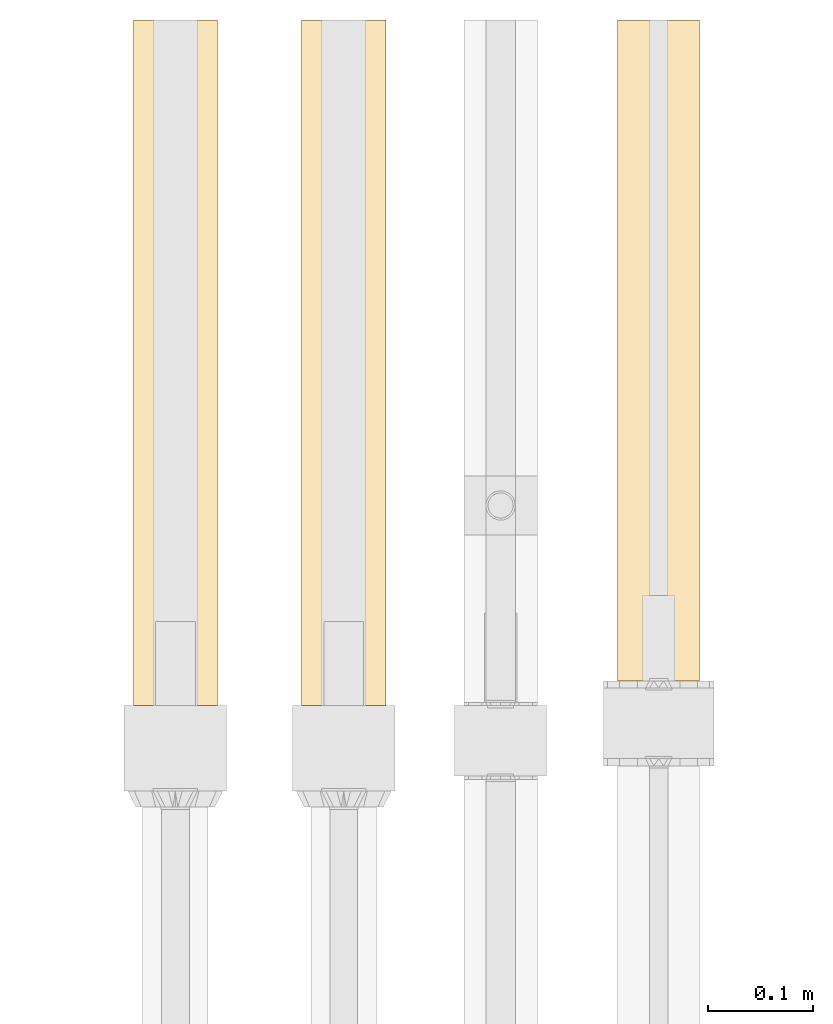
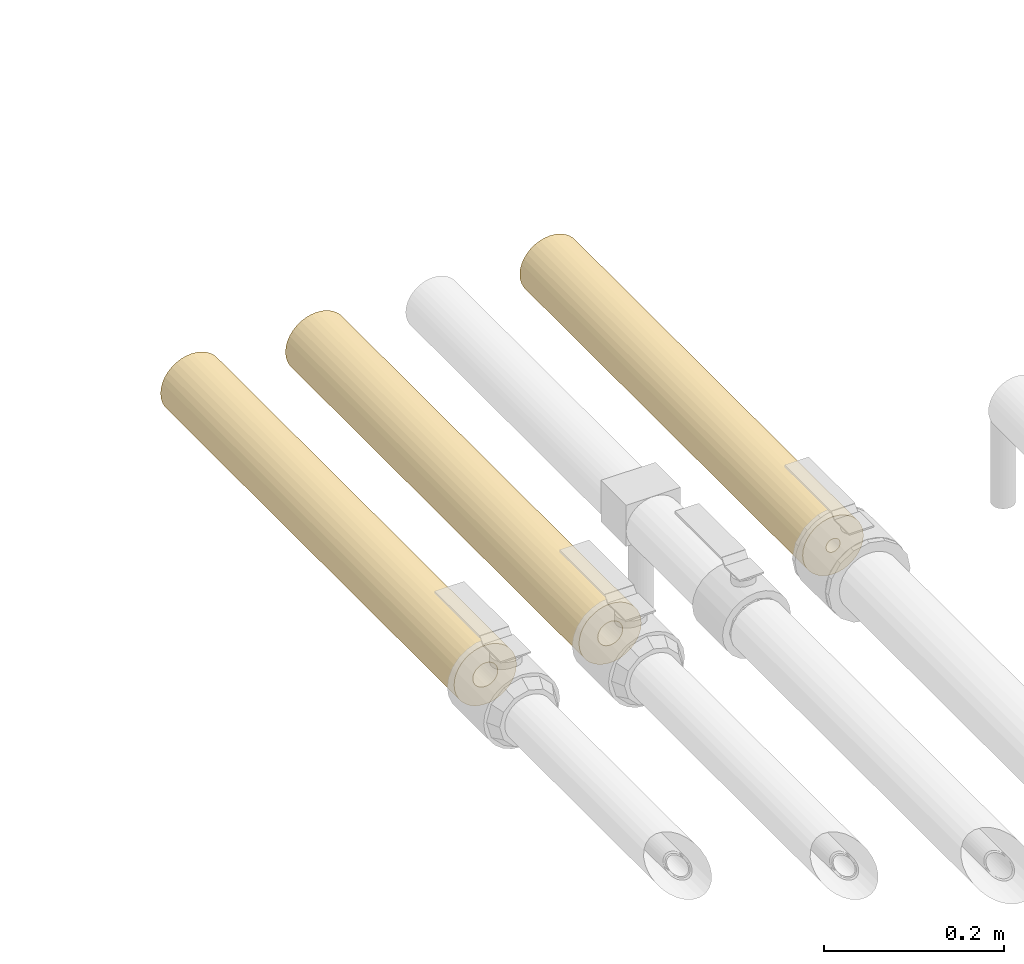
# One storey, part 21 of 83: 3 coverings.
"""IFC2X3 building model written with IfcOpenShell, lengths in millimetres."""

from ifc_helpers import new_model, entity, si_unit, converted_unit, derived_unit, direction, frame, place, context, subcontext, project, spatial, faceted_brep, element, save


model = new_model("IFC2X3")

# Units and contexts
model_context = context("Model", 3, precision=0.01, world=frame((0.0, 4.29681676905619e-09, 0.0)), true_north=direction((4.01073788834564e-13, 1.0)))
plan_context = context("Plan", 3, precision=0.01, world=frame((0.0, 4.29681676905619e-09, 0.0)), true_north=direction((4.01073788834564e-13, 1.0)))
body_context = subcontext(model_context, "Body", "Model", "MODEL_VIEW")
ifc_project = project(units=[converted_unit("PLANEANGLEUNIT", "DEGREE", entity("IfcPositiveLengthMeasure", 0.0174532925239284), si_unit("PLANEANGLEUNIT", "RADIAN"), dimensions=[0, 0, 0, 0, 0, 0, 0]), si_unit("AREAUNIT", "SQUARE_METRE"), si_unit("LENGTHUNIT", "METRE", prefix="MILLI"), si_unit("MASSUNIT", "GRAM", prefix="KILO"), si_unit("POWERUNIT", "WATT"), si_unit("PRESSUREUNIT", "PASCAL"), si_unit("FORCEUNIT", "NEWTON", prefix="KILO"), si_unit("ELECTRICVOLTAGEUNIT", "VOLT"), si_unit("ELECTRICCURRENTUNIT", "AMPERE"), si_unit("THERMODYNAMICTEMPERATUREUNIT", "DEGREE_CELSIUS"), si_unit("TIMEUNIT", "SECOND"), si_unit("VOLUMEUNIT", "CUBIC_METRE"), derived_unit("LINEARVELOCITYUNIT", [(si_unit("LENGTHUNIT", "METRE"), 1), (si_unit("TIMEUNIT", "SECOND"), -1)]), derived_unit("VOLUMETRICFLOWRATEUNIT", [(si_unit("VOLUMEUNIT", "CUBIC_METRE"), 1), (si_unit("TIMEUNIT", "SECOND"), -1)]), derived_unit("THERMALTRANSMITTANCEUNIT", [(si_unit("POWERUNIT", "WATT"), 1), (si_unit("THERMODYNAMICTEMPERATUREUNIT", "KELVIN"), -1), (si_unit("AREAUNIT", "SQUARE_METRE"), -1)]), derived_unit("SOUNDPRESSUREUNIT", [(si_unit("PRESSUREUNIT", "PASCAL"), 1)])], contexts=[model_context, plan_context])

# Site, building, storey
site_placement = place(None, frame((0.0, -4.29681676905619e-09, 0.0), z_axis=(0.0, 0.0, 1.0), x_axis=(1.0, 0.0, 0.0)))
site = spatial("IfcSite", under=ifc_project, at=site_placement, Name="ENGM", CompositionType="ELEMENT")
building_placement = place(site_placement, frame((0.0, 4.29681676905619e-09, 0.0), z_axis=(0.0, 0.0, 1.0), x_axis=(1.0, 0.0, 0.0)))
building = spatial("IfcBuilding", under=site, at=building_placement, Name="TI", CompositionType="ELEMENT")
storey_placement = place(building_placement, frame((0.0, 0.0, 204000.0), z_axis=(0.0, 0.0, 1.0), x_axis=(1.0, 0.0, 0.0)))
storey = spatial("IfcBuildingStorey", under=building, at=storey_placement, Name="Nivå D", CompositionType="ELEMENT", Elevation=204000.0)

# Coverings
covering_1_placement = place(storey_placement, frame((600031.9743, 700302.5909, 6052.20000000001), z_axis=(0.0, 0.0, 1.0), x_axis=(0.0, -1.0, 0.0)))
element("IfcCovering", 1, at=covering_1_placement, inside=storey, Name="BI16T - Rørskål m/Al.folie - VV 40mm", PredefinedType="INSULATION", context=body_context, shape_type="Brep", body=[
    faceted_brep([(827.09090000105, 8.86326977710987, -1.56283359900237), (827.09090000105, 9.0, 0.0), (1455.9, 9.0, 0.0), (1455.9, 8.86326977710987, -1.56283359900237), (827.09090000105, 8.45723358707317, -3.07818128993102), (1455.9, 8.45723358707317, -3.07818128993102), (827.09090000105, 7.79422863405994, -4.5), (1455.9, 7.79422863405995, -4.5), (827.09090000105, 6.8943999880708, -5.78508848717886), (1455.9, 6.8943999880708, -5.78508848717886), (827.09090000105, 5.78508848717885, -6.8943999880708), (1455.9, 5.78508848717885, -6.8943999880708), (827.09090000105, 4.5, -7.79422863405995), (1455.9, 4.5, -7.79422863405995), (827.09090000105, 3.07818128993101, -8.45723358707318), (1455.9, 3.07818128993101, -8.45723358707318), (827.09090000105, 1.56283359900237, -8.86326977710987), (1455.9, 1.56283359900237, -8.86326977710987), (827.09090000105, -1.65327317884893e-15, -9.0), (1455.9, -1.65327317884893e-15, -9.0), (827.09090000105, -1.56283359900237, -8.86326977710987), (1455.9, -1.56283359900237, -8.86326977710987), (827.09090000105, -3.07818128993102, -8.45723358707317), (1455.9, -3.07818128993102, -8.45723358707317), (827.09090000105, -4.5, -7.79422863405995), (1455.9, -4.5, -7.79422863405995), (827.09090000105, -5.78508848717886, -6.8943999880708), (1455.9, -5.78508848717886, -6.8943999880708), (827.09090000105, -6.8943999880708, -5.78508848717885), (1455.9, -6.8943999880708, -5.78508848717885), (827.09090000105, -7.79422863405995, -4.5), (1455.9, -7.79422863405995, -4.5), (827.09090000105, -8.45723358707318, -3.07818128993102), (1455.9, -8.45723358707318, -3.07818128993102), (827.09090000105, -8.86326977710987, -1.56283359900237), (1455.9, -8.86326977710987, -1.56283359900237), (827.09090000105, -9.0, 1.10218211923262e-15), (1455.9, -9.0, 1.10218211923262e-15), (827.09090000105, -8.86326977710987, 1.56283359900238), (1455.9, -8.86326977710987, 1.56283359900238), (827.09090000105, -8.45723358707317, 3.07818128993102), (1455.9, -8.45723358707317, 3.07818128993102), (827.09090000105, -7.79422863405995, 4.5), (1455.9, -7.79422863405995, 4.5), (827.09090000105, -6.8943999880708, 5.78508848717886), (1455.9, -6.8943999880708, 5.78508848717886), (827.09090000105, -5.78508848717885, 6.8943999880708), (1455.9, -5.78508848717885, 6.8943999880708), (827.09090000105, -4.5, 7.79422863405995), (1455.9, -4.5, 7.79422863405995), (827.09090000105, -3.07818128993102, 8.45723358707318), (1455.9, -3.07818128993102, 8.45723358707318), (827.09090000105, -1.56283359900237, 8.86326977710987), (1455.9, -1.56283359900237, 8.86326977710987), (827.09090000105, 5.51091059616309e-16, 9.0), (1455.9, 5.51091059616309e-16, 9.0), (827.09090000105, 1.56283359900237, 8.86326977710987), (1455.9, 1.56283359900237, 8.86326977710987), (827.09090000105, 3.07818128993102, 8.45723358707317), (1455.9, 3.07818128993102, 8.45723358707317), (827.09090000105, 4.5, 7.79422863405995), (1455.9, 4.5, 7.79422863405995), (827.09090000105, 5.78508848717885, 6.8943999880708), (1455.9, 5.78508848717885, 6.8943999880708), (827.09090000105, 6.8943999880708, 5.78508848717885), (1455.9, 6.8943999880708, 5.78508848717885), (827.09090000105, 7.79422863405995, 4.5), (1455.9, 7.79422863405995, 4.5), (827.09090000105, 8.45723358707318, 3.07818128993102), (1455.9, 8.45723358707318, 3.07818128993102), (827.09090000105, 8.86326977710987, 1.56283359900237), (1455.9, 8.86326977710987, 1.56283359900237), (827.09090000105, 39.0, 0.0), (827.09090000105, 38.4075023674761, -6.77227892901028), (1455.9, 38.4075023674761, -6.77227892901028), (1455.9, 39.0, 0.0), (827.09090000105, 38.4075023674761, 6.77227892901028), (1455.9, 38.4075023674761, 6.77227892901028), (827.09090000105, 36.6480122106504, 13.3387855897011), (1455.9, 36.6480122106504, 13.3387855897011), (827.09090000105, 33.7749907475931, 19.5), (1455.9, 33.7749907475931, 19.5), (827.09090000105, 29.8757332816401, 25.068716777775), (1455.9, 29.8757332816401, 25.068716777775), (827.09090000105, 25.068716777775, 29.8757332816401), (1455.9, 25.068716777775, 29.8757332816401), (827.09090000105, 19.5, 33.7749907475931), (1455.9, 19.5, 33.7749907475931), (827.09090000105, 13.3387855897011, 36.6480122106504), (1455.9, 13.3387855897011, 36.6480122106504), (827.09090000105, 6.77227892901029, 38.4075023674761), (1455.9, 6.77227892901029, 38.4075023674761), (827.09090000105, 2.38806125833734e-15, 39.0), (1455.9, 2.38806125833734e-15, 39.0), (827.09090000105, -6.77227892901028, 38.4075023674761), (1455.9, -6.77227892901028, 38.4075023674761), (827.09090000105, -13.3387855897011, 36.6480122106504), (1455.9, -13.3387855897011, 36.6480122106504), (827.09090000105, -19.5, 33.7749907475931), (1455.9, -19.5, 33.7749907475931), (827.09090000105, -25.068716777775, 29.8757332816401), (1455.9, -25.068716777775, 29.8757332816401), (827.09090000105, -29.8757332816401, 25.068716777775), (1455.9, -29.8757332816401, 25.068716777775), (827.09090000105, -33.7749907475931, 19.5), (1455.9, -33.7749907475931, 19.5), (827.09090000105, -36.6480122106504, 13.3387855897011), (1455.9, -36.6480122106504, 13.3387855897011), (827.09090000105, -38.4075023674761, 6.7722789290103), (1455.9, -38.4075023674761, 6.7722789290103), (827.09090000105, -39.0, 4.77612251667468e-15), (1455.9, -39.0, 4.77612251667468e-15), (827.09090000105, -38.4075023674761, -6.77227892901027), (1455.9, -38.4075023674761, -6.77227892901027), (827.09090000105, -36.6480122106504, -13.3387855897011), (1455.9, -36.6480122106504, -13.3387855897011), (827.09090000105, -33.7749907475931, -19.5), (1455.9, -33.7749907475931, -19.5), (827.09090000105, -29.8757332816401, -25.068716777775), (1455.9, -29.8757332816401, -25.068716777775), (827.09090000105, -25.068716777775, -29.8757332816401), (1455.9, -25.068716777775, -29.8757332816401), (827.09090000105, -19.5, -33.7749907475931), (1455.9, -19.5, -33.7749907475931), (827.09090000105, -13.3387855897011, -36.6480122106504), (1455.9, -13.3387855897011, -36.6480122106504), (827.09090000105, -6.77227892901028, -38.4075023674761), (1455.9, -6.77227892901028, -38.4075023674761), (827.09090000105, -7.16418377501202e-15, -39.0), (1455.9, -7.16418377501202e-15, -39.0), (827.09090000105, 6.77227892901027, -38.4075023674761), (1455.9, 6.77227892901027, -38.4075023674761), (827.09090000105, 13.3387855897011, -36.6480122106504), (1455.9, 13.3387855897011, -36.6480122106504), (827.09090000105, 19.5, -33.7749907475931), (1455.9, 19.5, -33.7749907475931), (827.09090000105, 25.068716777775, -29.8757332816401), (1455.9, 25.068716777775, -29.8757332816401), (827.09090000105, 29.8757332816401, -25.068716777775), (1455.9, 29.8757332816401, -25.068716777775), (827.09090000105, 33.7749907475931, -19.5), (1455.9, 33.7749907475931, -19.5), (827.09090000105, 36.6480122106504, -13.3387855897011), (1455.9, 36.6480122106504, -13.3387855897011)], [[[0, 1, 2, 3]], [[4, 0, 3, 5]], [[6, 4, 5, 7]], [[8, 6, 7, 9]], [[10, 8, 9, 11]], [[12, 10, 11, 13]], [[14, 12, 13, 15]], [[16, 14, 15, 17]], [[18, 16, 17, 19]], [[20, 18, 19, 21]], [[22, 20, 21, 23]], [[24, 22, 23, 25]], [[26, 24, 25, 27]], [[28, 26, 27, 29]], [[30, 28, 29, 31]], [[32, 30, 31, 33]], [[34, 32, 33, 35]], [[36, 34, 35, 37]], [[38, 36, 37, 39]], [[40, 38, 39, 41]], [[42, 40, 41, 43]], [[44, 42, 43, 45]], [[46, 44, 45, 47]], [[48, 46, 47, 49]], [[50, 48, 49, 51]], [[52, 50, 51, 53]], [[54, 52, 53, 55]], [[56, 54, 55, 57]], [[58, 56, 57, 59]], [[60, 58, 59, 61]], [[62, 60, 61, 63]], [[64, 62, 63, 65]], [[66, 64, 65, 67]], [[68, 66, 67, 69]], [[70, 68, 69, 71]], [[1, 70, 71, 2]], [[72, 73, 74, 75]], [[76, 72, 75, 77]], [[78, 76, 77, 79]], [[80, 78, 79, 81]], [[82, 80, 81, 83]], [[84, 82, 83, 85]], [[86, 84, 85, 87]], [[88, 86, 87, 89]], [[90, 88, 89, 91]], [[92, 90, 91, 93]], [[94, 92, 93, 95]], [[96, 94, 95, 97]], [[98, 96, 97, 99]], [[100, 98, 99, 101]], [[102, 100, 101, 103]], [[104, 102, 103, 105]], [[106, 104, 105, 107]], [[108, 106, 107, 109]], [[110, 108, 109, 111]], [[112, 110, 111, 113]], [[114, 112, 113, 115]], [[116, 114, 115, 117]], [[118, 116, 117, 119]], [[120, 118, 119, 121]], [[122, 120, 121, 123]], [[124, 122, 123, 125]], [[126, 124, 125, 127]], [[128, 126, 127, 129]], [[130, 128, 129, 131]], [[132, 130, 131, 133]], [[134, 132, 133, 135]], [[136, 134, 135, 137]], [[138, 136, 137, 139]], [[140, 138, 139, 141]], [[142, 140, 141, 143]], [[73, 142, 143, 74]], [[75, 74, 143, 141, 139, 137, 135, 133, 131, 129, 127, 125, 123, 121, 119, 117, 115, 113, 111, 109, 107, 105, 103, 101, 99, 97, 95, 93, 91, 89, 87, 85, 83, 81, 79, 77], [2, 71, 69, 67, 65, 63, 61, 59, 57, 55, 53, 51, 49, 47, 45, 43, 41, 39, 37, 35, 33, 31, 29, 27, 25, 23, 21, 19, 17, 15, 13, 11, 9, 7, 5, 3]], [[76, 78, 80, 82, 84, 86, 88, 90, 92, 94, 96, 98, 100, 102, 104, 106, 108, 110, 112, 114, 116, 118, 120, 122, 124, 126, 128, 130, 132, 134, 136, 138, 140, 142, 73, 72], [4, 6, 8, 10, 12, 14, 16, 18, 20, 22, 24, 26, 28, 30, 32, 34, 36, 38, 40, 42, 44, 46, 48, 50, 52, 54, 56, 58, 60, 62, 64, 66, 68, 70, 1, 0]]], orient=[[False], [False], [False], [False], [False], [False], [False], [False], [False], [False], [False], [False], [False], [False], [False], [False], [False], [False], [False], [False], [False], [False], [False], [False], [False], [False], [False], [False], [False], [False], [False], [False], [False], [False], [False], [False], [False], [False], [False], [False], [False], [False], [False], [False], [False], [False], [False], [False], [False], [False], [False], [False], [False], [False], [False], [False], [False], [False], [False], [False], [False], [False], [False], [False], [False], [False], [False], [False], [False], [False], [False], [False], [False, False], [False, False]]),
])
covering_2_placement = place(storey_placement, frame((599732.2743, 699900.47687, 6052.20000000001), z_axis=(0.0, -2.69999999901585e-05, 0.9999999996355), x_axis=(0.0, -0.9999999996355, -2.69999999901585e-05)))
element("IfcCovering", 2, at=covering_2_placement, inside=storey, Name="BI10T - Cellegummi 18-32 mm kalde rør", PredefinedType="INSULATION", context=body_context, shape_type="Brep", body=[
    faceted_brep([(424.976945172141, 15.7569240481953, -2.77837084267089), (424.976870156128, 16.0, 0.0), (1077.5, 16.0, 0.0), (1077.5, 15.7569240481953, -2.77837084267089), (424.97701790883, 15.0350819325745, -5.47232229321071), (1077.5, 15.0350819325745, -5.47232229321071), (424.977086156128, 13.856406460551, -8.00000000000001), (1077.5, 13.856406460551, -8.00000000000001), (424.977147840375, 12.2567110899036, -10.2846017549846), (1077.5, 12.2567110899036, -10.2846017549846), (424.977201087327, 10.2846017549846, -12.2567110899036), (1077.5, 10.2846017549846, -12.2567110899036), (424.977244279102, 8.0, -13.856406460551), (1077.5, 8.0, -13.856406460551), (424.97727610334, 5.47232229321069, -15.0350819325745), (1077.5, 5.47232229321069, -15.0350819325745), (424.977295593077, 2.77837084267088, -15.7569240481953), (1077.5, 2.77837084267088, -15.7569240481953), (424.977302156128, -2.93915231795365e-15, -16.0), (1077.5, -2.93915231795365e-15, -16.0), (424.977295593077, -2.77837084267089, -15.7569240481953), (1077.5, -2.77837084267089, -15.7569240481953), (424.97727610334, -5.47232229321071, -15.0350819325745), (1077.5, -5.47232229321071, -15.0350819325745), (424.977244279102, -8.00000000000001, -13.856406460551), (1077.5, -8.00000000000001, -13.856406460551), (424.977201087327, -10.2846017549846, -12.2567110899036), (1077.5, -10.2846017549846, -12.2567110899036), (424.977147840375, -12.2567110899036, -10.2846017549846), (1077.5, -12.2567110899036, -10.2846017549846), (424.977086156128, -13.856406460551, -8.0), (1077.5, -13.856406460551, -8.0), (424.97701790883, -15.0350819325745, -5.4723222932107), (1077.5, -15.0350819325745, -5.4723222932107), (424.976945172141, -15.7569240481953, -2.77837084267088), (1077.5, -15.7569240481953, -2.77837084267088), (424.976870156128, -16.0, 1.95943487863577e-15), (1077.5, -16.0, 1.95943487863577e-15), (424.976795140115, -15.7569240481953, 2.77837084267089), (1077.5, -15.7569240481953, 2.77837084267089), (424.976722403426, -15.0350819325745, 5.4723222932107), (1077.5, -15.0350819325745, 5.4723222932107), (424.976654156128, -13.856406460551, 8.0), (1077.5, -13.856406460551, 8.0), (424.976592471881, -12.2567110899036, 10.2846017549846), (1077.5, -12.2567110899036, 10.2846017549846), (424.976539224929, -10.2846017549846, 12.2567110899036), (1077.5, -10.2846017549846, 12.2567110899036), (424.976496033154, -8.0, 13.856406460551), (1077.5, -8.0, 13.856406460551), (424.976464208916, -5.4723222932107, 15.0350819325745), (1077.5, -5.4723222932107, 15.0350819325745), (424.976444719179, -2.77837084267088, 15.7569240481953), (1077.5, -2.77837084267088, 15.7569240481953), (424.976438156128, 9.79717439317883e-16, 16.0), (1077.5, 9.79717439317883e-16, 16.0), (424.976444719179, 2.77837084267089, 15.7569240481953), (1077.5, 2.77837084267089, 15.7569240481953), (424.976464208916, 5.4723222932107, 15.0350819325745), (1077.5, 5.4723222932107, 15.0350819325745), (424.976496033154, 8.0, 13.856406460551), (1077.5, 8.0, 13.856406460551), (424.976539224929, 10.2846017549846, 12.2567110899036), (1077.5, 10.2846017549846, 12.2567110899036), (424.976592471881, 12.2567110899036, 10.2846017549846), (1077.5, 12.2567110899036, 10.2846017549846), (424.976654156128, 13.856406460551, 8.0), (1077.5, 13.856406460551, 8.0), (424.976722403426, 15.0350819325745, 5.4723222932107), (1077.5, 15.0350819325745, 5.4723222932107), (424.976795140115, 15.7569240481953, 2.77837084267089), (1077.5, 15.7569240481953, 2.77837084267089), (424.976870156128, 40.0, 0.0), (424.97705769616, 39.3923101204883, -6.94592710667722), (1077.5, 39.3923101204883, -6.94592710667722), (1077.5, 40.0, 0.0), (424.976682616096, 39.3923101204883, 6.94592710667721), (1077.5, 39.3923101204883, 6.94592710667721), (424.976500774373, 37.5877048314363, 13.6808057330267), (1077.5, 37.5877048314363, 13.6808057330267), (424.976330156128, 34.6410161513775, 20.0), (1077.5, 34.6410161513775, 20.0), (424.97617594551, 30.6417777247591, 25.7115043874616), (1077.5, 30.6417777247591, 25.7115043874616), (424.976042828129, 25.7115043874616, 30.6417777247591), (1077.5, 25.7115043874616, 30.6417777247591), (424.975934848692, 20.0, 34.6410161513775), (1077.5, 20.0, 34.6410161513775), (424.975855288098, 13.6808057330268, 37.5877048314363), (1077.5, 13.6808057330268, 37.5877048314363), (424.975806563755, 6.94592710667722, 39.3923101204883), (1077.5, 6.94592710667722, 39.3923101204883), (424.975790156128, 2.44929359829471e-15, 40.0), (1077.5, 2.44929359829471e-15, 40.0), (424.975806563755, -6.94592710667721, 39.3923101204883), (1077.5, -6.94592710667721, 39.3923101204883), (424.975855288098, -13.6808057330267, 37.5877048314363), (1077.5, -13.6808057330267, 37.5877048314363), (424.975934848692, -20.0, 34.6410161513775), (1077.5, -20.0, 34.6410161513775), (424.976042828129, -25.7115043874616, 30.6417777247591), (1077.5, -25.7115043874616, 30.6417777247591), (424.97617594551, -30.6417777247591, 25.7115043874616), (1077.5, -30.6417777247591, 25.7115043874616), (424.976330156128, -34.6410161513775, 20.0), (1077.5, -34.6410161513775, 20.0), (424.976500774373, -37.5877048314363, 13.6808057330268), (1077.5, -37.5877048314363, 13.6808057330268), (424.976682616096, -39.3923101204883, 6.94592710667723), (1077.5, -39.3923101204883, 6.94592710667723), (424.976870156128, -40.0, 4.89858719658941e-15), (1077.5, -40.0, 4.89858719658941e-15), (424.97705769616, -39.3923101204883, -6.9459271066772), (1077.5, -39.3923101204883, -6.9459271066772), (424.977239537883, -37.5877048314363, -13.6808057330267), (1077.5, -37.5877048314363, -13.6808057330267), (424.977410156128, -34.6410161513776, -20.0), (1077.5, -34.6410161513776, -20.0), (424.977564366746, -30.6417777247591, -25.7115043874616), (1077.5, -30.6417777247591, -25.7115043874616), (424.977697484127, -25.7115043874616, -30.6417777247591), (1077.5, -25.7115043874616, -30.6417777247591), (424.977805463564, -20.0, -34.6410161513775), (1077.5, -20.0, -34.6410161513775), (424.977885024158, -13.6808057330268, -37.5877048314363), (1077.5, -13.6808057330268, -37.5877048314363), (424.977933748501, -6.94592710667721, -39.3923101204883), (1077.5, -6.94592710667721, -39.3923101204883), (424.977950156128, -7.34788079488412e-15, -40.0), (1077.5, -7.34788079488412e-15, -40.0), (424.977933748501, 6.9459271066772, -39.3923101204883), (1077.5, 6.9459271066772, -39.3923101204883), (424.977885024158, 13.6808057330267, -37.5877048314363), (1077.5, 13.6808057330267, -37.5877048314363), (424.977805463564, 20.0, -34.6410161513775), (1077.5, 20.0, -34.6410161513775), (424.977697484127, 25.7115043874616, -30.6417777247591), (1077.5, 25.7115043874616, -30.6417777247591), (424.977564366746, 30.6417777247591, -25.7115043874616), (1077.5, 30.6417777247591, -25.7115043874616), (424.977410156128, 34.6410161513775, -20.0), (1077.5, 34.6410161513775, -20.0), (424.977239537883, 37.5877048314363, -13.6808057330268), (1077.5, 37.5877048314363, -13.6808057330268)], [[[0, 1, 2, 3]], [[4, 0, 3, 5]], [[6, 4, 5, 7]], [[8, 6, 7, 9]], [[10, 8, 9, 11]], [[12, 10, 11, 13]], [[14, 12, 13, 15]], [[16, 14, 15, 17]], [[18, 16, 17, 19]], [[20, 18, 19, 21]], [[22, 20, 21, 23]], [[24, 22, 23, 25]], [[26, 24, 25, 27]], [[28, 26, 27, 29]], [[30, 28, 29, 31]], [[32, 30, 31, 33]], [[34, 32, 33, 35]], [[36, 34, 35, 37]], [[38, 36, 37, 39]], [[40, 38, 39, 41]], [[42, 40, 41, 43]], [[44, 42, 43, 45]], [[46, 44, 45, 47]], [[48, 46, 47, 49]], [[50, 48, 49, 51]], [[52, 50, 51, 53]], [[54, 52, 53, 55]], [[56, 54, 55, 57]], [[58, 56, 57, 59]], [[60, 58, 59, 61]], [[62, 60, 61, 63]], [[64, 62, 63, 65]], [[66, 64, 65, 67]], [[68, 66, 67, 69]], [[70, 68, 69, 71]], [[1, 70, 71, 2]], [[72, 73, 74, 75]], [[76, 72, 75, 77]], [[78, 76, 77, 79]], [[80, 78, 79, 81]], [[82, 80, 81, 83]], [[84, 82, 83, 85]], [[86, 84, 85, 87]], [[88, 86, 87, 89]], [[90, 88, 89, 91]], [[92, 90, 91, 93]], [[94, 92, 93, 95]], [[96, 94, 95, 97]], [[98, 96, 97, 99]], [[100, 98, 99, 101]], [[102, 100, 101, 103]], [[104, 102, 103, 105]], [[106, 104, 105, 107]], [[108, 106, 107, 109]], [[110, 108, 109, 111]], [[112, 110, 111, 113]], [[114, 112, 113, 115]], [[116, 114, 115, 117]], [[118, 116, 117, 119]], [[120, 118, 119, 121]], [[122, 120, 121, 123]], [[124, 122, 123, 125]], [[126, 124, 125, 127]], [[128, 126, 127, 129]], [[130, 128, 129, 131]], [[132, 130, 131, 133]], [[134, 132, 133, 135]], [[136, 134, 135, 137]], [[138, 136, 137, 139]], [[140, 138, 139, 141]], [[142, 140, 141, 143]], [[73, 142, 143, 74]], [[75, 74, 143, 141, 139, 137, 135, 133, 131, 129, 127, 125, 123, 121, 119, 117, 115, 113, 111, 109, 107, 105, 103, 101, 99, 97, 95, 93, 91, 89, 87, 85, 83, 81, 79, 77], [2, 71, 69, 67, 65, 63, 61, 59, 57, 55, 53, 51, 49, 47, 45, 43, 41, 39, 37, 35, 33, 31, 29, 27, 25, 23, 21, 19, 17, 15, 13, 11, 9, 7, 5, 3]], [[76, 78, 80, 82, 84, 86, 88, 90, 92, 94, 96, 98, 100, 102, 104, 106, 108, 110, 112, 114, 116, 118, 120, 122, 124, 126, 128, 130, 132, 134, 136, 138, 140, 142, 73, 72], [4, 6, 8, 10, 12, 14, 16, 18, 20, 22, 24, 26, 28, 30, 32, 34, 36, 38, 40, 42, 44, 46, 48, 50, 52, 54, 56, 58, 60, 62, 64, 66, 68, 70, 1, 0]]], orient=[[False], [False], [False], [False], [False], [False], [False], [False], [False], [False], [False], [False], [False], [False], [False], [False], [False], [False], [False], [False], [False], [False], [False], [False], [False], [False], [False], [False], [False], [False], [False], [False], [False], [False], [False], [False], [False], [False], [False], [False], [False], [False], [False], [False], [False], [False], [False], [False], [False], [False], [False], [False], [False], [False], [False], [False], [False], [False], [False], [False], [False], [False], [False], [False], [False], [False], [False], [False], [False], [False], [False], [False], [False, False], [False, False]]),
])
covering_3_placement = place(storey_placement, frame((599571.9743, 699780.77958, 6052.20000000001), z_axis=(0.0, 0.0, 1.0), x_axis=(0.0, -1.0, 0.0)))
element("IfcCovering", 3, at=covering_3_placement, inside=storey, Name="BI10T - Cellegummi 18-32 mm kalde rør", PredefinedType="INSULATION", context=body_context, shape_type="Brep", body=[
    faceted_brep([(305.279580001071, 15.7569240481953, -2.77837084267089), (305.279580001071, 16.0, 0.0), (957.8, 16.0, 0.0), (957.8, 15.7569240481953, -2.77837084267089), (305.279580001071, 15.0350819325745, -5.47232229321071), (957.8, 15.0350819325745, -5.47232229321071), (305.279580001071, 13.856406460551, -8.00000000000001), (957.8, 13.856406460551, -8.00000000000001), (305.279580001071, 12.2567110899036, -10.2846017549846), (957.8, 12.2567110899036, -10.2846017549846), (305.279580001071, 10.2846017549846, -12.2567110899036), (957.8, 10.2846017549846, -12.2567110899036), (305.279580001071, 8.0, -13.856406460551), (957.8, 8.0, -13.856406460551), (305.279580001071, 5.47232229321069, -15.0350819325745), (957.8, 5.47232229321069, -15.0350819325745), (305.279580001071, 2.77837084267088, -15.7569240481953), (957.8, 2.77837084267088, -15.7569240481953), (305.279580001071, -2.93915231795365e-15, -16.0), (957.8, -2.93915231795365e-15, -16.0), (305.279580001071, -2.77837084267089, -15.7569240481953), (957.8, -2.77837084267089, -15.7569240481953), (305.279580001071, -5.47232229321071, -15.0350819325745), (957.8, -5.47232229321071, -15.0350819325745), (305.279580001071, -8.00000000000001, -13.856406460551), (957.8, -8.00000000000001, -13.856406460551), (305.279580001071, -10.2846017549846, -12.2567110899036), (957.8, -10.2846017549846, -12.2567110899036), (305.279580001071, -12.2567110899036, -10.2846017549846), (957.8, -12.2567110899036, -10.2846017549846), (305.279580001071, -13.856406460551, -8.0), (957.8, -13.856406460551, -8.0), (305.279580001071, -15.0350819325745, -5.4723222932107), (957.8, -15.0350819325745, -5.4723222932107), (305.279580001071, -15.7569240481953, -2.77837084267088), (957.8, -15.7569240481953, -2.77837084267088), (305.279580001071, -16.0, 1.95943487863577e-15), (957.8, -16.0, 1.95943487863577e-15), (305.279580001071, -15.7569240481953, 2.77837084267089), (957.8, -15.7569240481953, 2.77837084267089), (305.279580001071, -15.0350819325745, 5.4723222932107), (957.8, -15.0350819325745, 5.4723222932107), (305.279580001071, -13.856406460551, 8.0), (957.8, -13.856406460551, 8.0), (305.279580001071, -12.2567110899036, 10.2846017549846), (957.8, -12.2567110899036, 10.2846017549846), (305.279580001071, -10.2846017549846, 12.2567110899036), (957.8, -10.2846017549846, 12.2567110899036), (305.279580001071, -8.0, 13.856406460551), (957.8, -8.0, 13.856406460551), (305.279580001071, -5.4723222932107, 15.0350819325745), (957.8, -5.4723222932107, 15.0350819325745), (305.279580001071, -2.77837084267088, 15.7569240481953), (957.8, -2.77837084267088, 15.7569240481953), (305.279580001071, 9.79717439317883e-16, 16.0), (957.8, 9.79717439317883e-16, 16.0), (305.279580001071, 2.77837084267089, 15.7569240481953), (957.8, 2.77837084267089, 15.7569240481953), (305.279580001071, 5.4723222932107, 15.0350819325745), (957.8, 5.4723222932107, 15.0350819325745), (305.279580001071, 8.0, 13.856406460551), (957.8, 8.0, 13.856406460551), (305.279580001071, 10.2846017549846, 12.2567110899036), (957.8, 10.2846017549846, 12.2567110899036), (305.279580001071, 12.2567110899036, 10.2846017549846), (957.8, 12.2567110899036, 10.2846017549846), (305.279580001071, 13.856406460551, 8.0), (957.8, 13.856406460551, 8.0), (305.279580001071, 15.0350819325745, 5.4723222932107), (957.8, 15.0350819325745, 5.4723222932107), (305.279580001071, 15.7569240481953, 2.77837084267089), (957.8, 15.7569240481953, 2.77837084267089), (305.279580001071, 40.0, 0.0), (305.279580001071, 39.3923101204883, -6.94592710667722), (957.8, 39.3923101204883, -6.94592710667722), (957.8, 40.0, 0.0), (305.279580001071, 39.3923101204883, 6.94592710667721), (957.8, 39.3923101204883, 6.94592710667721), (305.279580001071, 37.5877048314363, 13.6808057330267), (957.8, 37.5877048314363, 13.6808057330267), (305.279580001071, 34.6410161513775, 20.0), (957.8, 34.6410161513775, 20.0), (305.279580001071, 30.6417777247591, 25.7115043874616), (957.8, 30.6417777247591, 25.7115043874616), (305.279580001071, 25.7115043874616, 30.6417777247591), (957.8, 25.7115043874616, 30.6417777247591), (305.279580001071, 20.0, 34.6410161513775), (957.8, 20.0, 34.6410161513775), (305.279580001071, 13.6808057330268, 37.5877048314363), (957.8, 13.6808057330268, 37.5877048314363), (305.279580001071, 6.94592710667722, 39.3923101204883), (957.8, 6.94592710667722, 39.3923101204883), (305.279580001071, 2.44929359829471e-15, 40.0), (957.8, 2.44929359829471e-15, 40.0), (305.279580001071, -6.94592710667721, 39.3923101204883), (957.8, -6.94592710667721, 39.3923101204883), (305.279580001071, -13.6808057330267, 37.5877048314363), (957.8, -13.6808057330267, 37.5877048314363), (305.279580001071, -20.0, 34.6410161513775), (957.8, -20.0, 34.6410161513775), (305.279580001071, -25.7115043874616, 30.6417777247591), (957.8, -25.7115043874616, 30.6417777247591), (305.279580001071, -30.6417777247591, 25.7115043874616), (957.8, -30.6417777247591, 25.7115043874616), (305.279580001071, -34.6410161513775, 20.0), (957.8, -34.6410161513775, 20.0), (305.279580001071, -37.5877048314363, 13.6808057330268), (957.8, -37.5877048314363, 13.6808057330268), (305.279580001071, -39.3923101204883, 6.94592710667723), (957.8, -39.3923101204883, 6.94592710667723), (305.279580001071, -40.0, 4.89858719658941e-15), (957.8, -40.0, 4.89858719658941e-15), (305.279580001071, -39.3923101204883, -6.9459271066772), (957.8, -39.3923101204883, -6.9459271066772), (305.279580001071, -37.5877048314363, -13.6808057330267), (957.8, -37.5877048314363, -13.6808057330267), (305.279580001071, -34.6410161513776, -20.0), (957.8, -34.6410161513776, -20.0), (305.279580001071, -30.6417777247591, -25.7115043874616), (957.8, -30.6417777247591, -25.7115043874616), (305.279580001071, -25.7115043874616, -30.6417777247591), (957.8, -25.7115043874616, -30.6417777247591), (305.279580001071, -20.0, -34.6410161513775), (957.8, -20.0, -34.6410161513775), (305.279580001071, -13.6808057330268, -37.5877048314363), (957.8, -13.6808057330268, -37.5877048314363), (305.279580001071, -6.94592710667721, -39.3923101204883), (957.8, -6.94592710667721, -39.3923101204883), (305.279580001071, -7.34788079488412e-15, -40.0), (957.8, -7.34788079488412e-15, -40.0), (305.279580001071, 6.9459271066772, -39.3923101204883), (957.8, 6.9459271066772, -39.3923101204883), (305.279580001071, 13.6808057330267, -37.5877048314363), (957.8, 13.6808057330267, -37.5877048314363), (305.279580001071, 20.0, -34.6410161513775), (957.8, 20.0, -34.6410161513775), (305.279580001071, 25.7115043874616, -30.6417777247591), (957.8, 25.7115043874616, -30.6417777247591), (305.279580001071, 30.6417777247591, -25.7115043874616), (957.8, 30.6417777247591, -25.7115043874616), (305.279580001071, 34.6410161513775, -20.0), (957.8, 34.6410161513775, -20.0), (305.279580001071, 37.5877048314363, -13.6808057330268), (957.8, 37.5877048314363, -13.6808057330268)], [[[0, 1, 2, 3]], [[4, 0, 3, 5]], [[6, 4, 5, 7]], [[8, 6, 7, 9]], [[10, 8, 9, 11]], [[12, 10, 11, 13]], [[14, 12, 13, 15]], [[16, 14, 15, 17]], [[18, 16, 17, 19]], [[20, 18, 19, 21]], [[22, 20, 21, 23]], [[24, 22, 23, 25]], [[26, 24, 25, 27]], [[28, 26, 27, 29]], [[30, 28, 29, 31]], [[32, 30, 31, 33]], [[34, 32, 33, 35]], [[36, 34, 35, 37]], [[38, 36, 37, 39]], [[40, 38, 39, 41]], [[42, 40, 41, 43]], [[44, 42, 43, 45]], [[46, 44, 45, 47]], [[48, 46, 47, 49]], [[50, 48, 49, 51]], [[52, 50, 51, 53]], [[54, 52, 53, 55]], [[56, 54, 55, 57]], [[58, 56, 57, 59]], [[60, 58, 59, 61]], [[62, 60, 61, 63]], [[64, 62, 63, 65]], [[66, 64, 65, 67]], [[68, 66, 67, 69]], [[70, 68, 69, 71]], [[1, 70, 71, 2]], [[72, 73, 74, 75]], [[76, 72, 75, 77]], [[78, 76, 77, 79]], [[80, 78, 79, 81]], [[82, 80, 81, 83]], [[84, 82, 83, 85]], [[86, 84, 85, 87]], [[88, 86, 87, 89]], [[90, 88, 89, 91]], [[92, 90, 91, 93]], [[94, 92, 93, 95]], [[96, 94, 95, 97]], [[98, 96, 97, 99]], [[100, 98, 99, 101]], [[102, 100, 101, 103]], [[104, 102, 103, 105]], [[106, 104, 105, 107]], [[108, 106, 107, 109]], [[110, 108, 109, 111]], [[112, 110, 111, 113]], [[114, 112, 113, 115]], [[116, 114, 115, 117]], [[118, 116, 117, 119]], [[120, 118, 119, 121]], [[122, 120, 121, 123]], [[124, 122, 123, 125]], [[126, 124, 125, 127]], [[128, 126, 127, 129]], [[130, 128, 129, 131]], [[132, 130, 131, 133]], [[134, 132, 133, 135]], [[136, 134, 135, 137]], [[138, 136, 137, 139]], [[140, 138, 139, 141]], [[142, 140, 141, 143]], [[73, 142, 143, 74]], [[75, 74, 143, 141, 139, 137, 135, 133, 131, 129, 127, 125, 123, 121, 119, 117, 115, 113, 111, 109, 107, 105, 103, 101, 99, 97, 95, 93, 91, 89, 87, 85, 83, 81, 79, 77], [2, 71, 69, 67, 65, 63, 61, 59, 57, 55, 53, 51, 49, 47, 45, 43, 41, 39, 37, 35, 33, 31, 29, 27, 25, 23, 21, 19, 17, 15, 13, 11, 9, 7, 5, 3]], [[76, 78, 80, 82, 84, 86, 88, 90, 92, 94, 96, 98, 100, 102, 104, 106, 108, 110, 112, 114, 116, 118, 120, 122, 124, 126, 128, 130, 132, 134, 136, 138, 140, 142, 73, 72], [4, 6, 8, 10, 12, 14, 16, 18, 20, 22, 24, 26, 28, 30, 32, 34, 36, 38, 40, 42, 44, 46, 48, 50, 52, 54, 56, 58, 60, 62, 64, 66, 68, 70, 1, 0]]], orient=[[False], [False], [False], [False], [False], [False], [False], [False], [False], [False], [False], [False], [False], [False], [False], [False], [False], [False], [False], [False], [False], [False], [False], [False], [False], [False], [False], [False], [False], [False], [False], [False], [False], [False], [False], [False], [False], [False], [False], [False], [False], [False], [False], [False], [False], [False], [False], [False], [False], [False], [False], [False], [False], [False], [False], [False], [False], [False], [False], [False], [False], [False], [False], [False], [False], [False], [False], [False], [False], [False], [False], [False], [False, False], [False, False]]),
])

save(model, "model.ifc")
